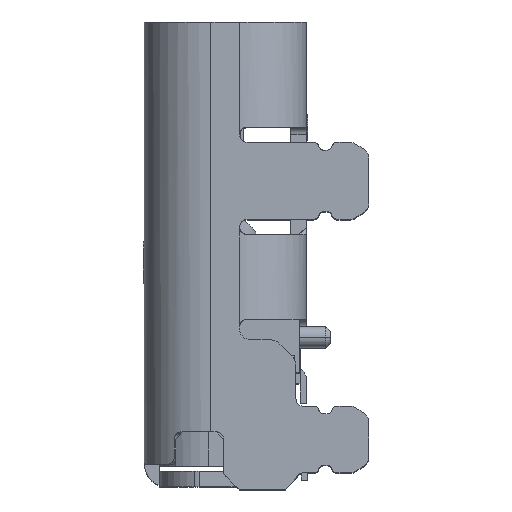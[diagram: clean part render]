
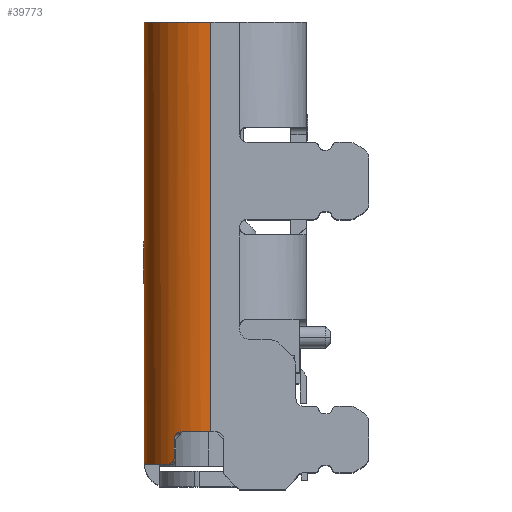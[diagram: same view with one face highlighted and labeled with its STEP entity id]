
A CAD part, top view. The second image highlights one B-rep face of the part: STEP entity #39773.
In plain terms, the highlighted cylindrical face has radius 1.3 mm (diameter 2.6 mm), a partial arc.
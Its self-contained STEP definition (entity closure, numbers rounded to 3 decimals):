
#19348=CARTESIAN_POINT('',(-122.543,-1.484,
3.321));
#19349=CARTESIAN_POINT('',(-122.543,-1.484,
3.316));
#19350=CARTESIAN_POINT('',(-122.544,-1.483,
3.308));
#19351=CARTESIAN_POINT('',(-122.546,-1.482,
3.295));
#19352=CARTESIAN_POINT('',(-122.546,-1.48,
3.287));
#19353=CARTESIAN_POINT('',(-122.547,-1.479,
3.283));
#19355=CARTESIAN_POINT('',(-121.967,-1.334,
4.256));
#19356=CARTESIAN_POINT('',(-121.967,-1.349,
4.256));
#19357=CARTESIAN_POINT('',(-121.971,-1.38,
4.254));
#19358=CARTESIAN_POINT('',(-121.989,-1.423,
4.241));
#19359=CARTESIAN_POINT('',(-122.017,-1.457,
4.222));
#19360=CARTESIAN_POINT('',(-122.051,-1.479,
4.196));
#19361=CARTESIAN_POINT('',(-122.075,-1.484,
4.177));
#19362=CARTESIAN_POINT('',(-122.087,-1.484,
4.167));
#19364=DIRECTION('',(0.,-1.,0.));
#19365=VECTOR('',#19364,0.33);
#19366=CARTESIAN_POINT('',(-121.967,-1.004,
4.256));
#19367=LINE('',#19366,#19365);
#19368=CARTESIAN_POINT('',(-121.837,-0.854,
4.332));
#19369=CARTESIAN_POINT('',(-121.851,-0.854,
4.324));
#19370=CARTESIAN_POINT('',(-121.878,-0.858,
4.31));
#19371=CARTESIAN_POINT('',(-121.915,-0.88,
4.289));
#19372=CARTESIAN_POINT('',(-121.944,-0.914,
4.271));
#19373=CARTESIAN_POINT('',(-121.963,-0.957,
4.259));
#19374=CARTESIAN_POINT('',(-121.967,-0.988,
4.256));
#19375=CARTESIAN_POINT('',(-121.967,-1.004,
4.256));
#19377=DIRECTION('',(0.,-1.,0.));
#19378=VECTOR('',#19377,8.);
#19379=CARTESIAN_POINT('',(-121.252,7.146,
4.471));
#19380=LINE('',#19379,#19378);
#19381=DIRECTION('',(0.,1.,0.));
#19382=VECTOR('',#19381,8.63);
#19383=CARTESIAN_POINT('',(-122.552,-1.484,
3.171));
#19384=LINE('',#19383,#19382);
#19385=CARTESIAN_POINT('',(-122.547,-1.479,
3.283));
#19386=CARTESIAN_POINT('',(-122.548,-1.48,
3.27));
#19387=CARTESIAN_POINT('',(-122.55,-1.482,
3.245));
#19388=CARTESIAN_POINT('',(-122.551,-1.483,
3.208));
#19389=CARTESIAN_POINT('',(-122.552,-1.484,
3.183));
#19390=CARTESIAN_POINT('',(-122.552,-1.484,
3.171));
#19427=CARTESIAN_POINT('',(-122.547,-1.479,
3.283));
#22071=CARTESIAN_POINT('',(-121.252,-0.854,
3.171));
#22072=DIRECTION('',(0.,1.,0.));
#22073=DIRECTION('',(-0.45,0.,0.893));
#22074=AXIS2_PLACEMENT_3D('',#22071,#22072,#22073);
#25329=CARTESIAN_POINT('',(-121.252,7.146,
3.171));
#25330=DIRECTION('',(0.,1.,0.));
#25331=DIRECTION('',(-1.,0.,0.));
#25332=AXIS2_PLACEMENT_3D('',#25329,#25330,#25331);
#29710=CARTESIAN_POINT('',(-121.252,-1.484,
3.171));
#29711=DIRECTION('',(0.,-1.,0.));
#29712=DIRECTION('',(-0.643,0.,0.766));
#29713=AXIS2_PLACEMENT_3D('',#29710,#29711,#29712);
#34992=VERTEX_POINT('',#19427);
#35241=VERTEX_POINT('',#19390);
#35247=CARTESIAN_POINT('',(-122.552,7.146,
3.171));
#35248=VERTEX_POINT('',#35247);
#35249=CARTESIAN_POINT('',(-121.252,7.146,
4.471));
#35250=VERTEX_POINT('',#35249);
#35251=CARTESIAN_POINT('',(-121.252,-0.854,
4.471));
#35252=VERTEX_POINT('',#35251);
#35253=CARTESIAN_POINT('',(-121.837,-0.854,
4.332));
#35254=VERTEX_POINT('',#35253);
#35255=VERTEX_POINT('',#19375);
#35256=CARTESIAN_POINT('',(-121.967,-1.334,
4.256));
#35257=VERTEX_POINT('',#35256);
#35258=VERTEX_POINT('',#19362);
#35259=CARTESIAN_POINT('',(-122.543,-1.484,
3.321));
#35260=VERTEX_POINT('',#35259);
#39747=CARTESIAN_POINT('',(-121.252,-1.656,
3.171));
#39748=DIRECTION('',(0.,1.,0.));
#39749=DIRECTION('',(-1.,0.,0.));
#39750=AXIS2_PLACEMENT_3D('',#39747,#39748,#39749);
#39751=CYLINDRICAL_SURFACE('',#39750,1.3);
#39753=ORIENTED_EDGE('',*,*,#39752,.F.);
#39755=ORIENTED_EDGE('',*,*,#39754,.F.);
#39757=ORIENTED_EDGE('',*,*,#39756,.F.);
#39759=ORIENTED_EDGE('',*,*,#39758,.F.);
#39761=ORIENTED_EDGE('',*,*,#39760,.F.);
#39763=ORIENTED_EDGE('',*,*,#39762,.F.);
#39765=ORIENTED_EDGE('',*,*,#39764,.T.);
#39767=ORIENTED_EDGE('',*,*,#39766,.F.);
#39769=ORIENTED_EDGE('',*,*,#39768,.F.);
#39770=ORIENTED_EDGE('',*,*,#39582,.F.);
#39771=EDGE_LOOP('',(#39753,#39755,#39757,#39759,#39761,#39763,#39765,#39767,
#39769,#39770));
#39772=FACE_OUTER_BOUND('',#39771,.F.);
#19354=B_SPLINE_CURVE_WITH_KNOTS('',3,(#19348,#19349,#19350,#19351,#19352,
#19353),.UNSPECIFIED.,.F.,.F.,(4,1,1,4),(0.,0.333,
0.667,1.),.UNSPECIFIED.);
#19363=B_SPLINE_CURVE_WITH_KNOTS('',3,(#19355,#19356,#19357,#19358,#19359,
#19360,#19361,#19362),.UNSPECIFIED.,.F.,.F.,(4,1,1,1,1,4),(0.,0.2,0.4,
0.6,0.8,1.),.UNSPECIFIED.);
#19376=B_SPLINE_CURVE_WITH_KNOTS('',3,(#19368,#19369,#19370,#19371,#19372,
#19373,#19374,#19375),.UNSPECIFIED.,.F.,.F.,(4,1,1,1,1,4),(0.,0.2,0.4,
0.6,0.8,1.),.UNSPECIFIED.);
#19391=B_SPLINE_CURVE_WITH_KNOTS('',3,(#19385,#19386,#19387,#19388,#19389,
#19390),.UNSPECIFIED.,.F.,.F.,(4,1,1,4),(0.,0.333,
0.667,1.),.UNSPECIFIED.);
#22075=CIRCLE('',#22074,1.3);
#25333=CIRCLE('',#25332,1.3);
#29714=CIRCLE('',#29713,1.3);
#39582=EDGE_CURVE('',#35241,#35248,#19384,.T.);
#39752=EDGE_CURVE('',#34992,#35241,#19391,.T.);
#39754=EDGE_CURVE('',#35260,#34992,#19354,.T.);
#39756=EDGE_CURVE('',#35258,#35260,#29714,.T.);
#39758=EDGE_CURVE('',#35257,#35258,#19363,.T.);
#39760=EDGE_CURVE('',#35255,#35257,#19367,.T.);
#39762=EDGE_CURVE('',#35254,#35255,#19376,.T.);
#39764=EDGE_CURVE('',#35254,#35252,#22075,.T.);
#39766=EDGE_CURVE('',#35250,#35252,#19380,.T.);
#39768=EDGE_CURVE('',#35248,#35250,#25333,.T.);
#39773=ADVANCED_FACE('',(#39772),#39751,.F.);
